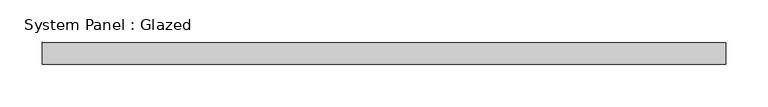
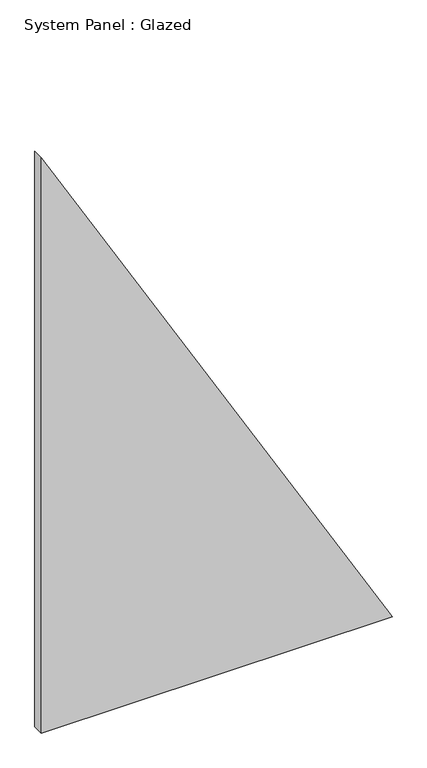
"""IFC4 building model written with IfcOpenShell, lengths in millimetres: plate geometry, System Panel : Glazed."""

from ifc_helpers import new_model, si_unit, frame, origin, place, context, project, spatial, polyline, outline, extrude, source, transform, mapped, element, save


def system_panel_glazed_b678a0e2(model_context):
    return source(origin(), model_context, "Body", "SweptSolid", [
        extrude(outline(polyline([(0.0, -402.0510469), (0.0, 402.0510469), (1392.7456808, -402.0510469), (0.0, -402.0510469)])), frame((0.0, 19.05, 0.0), z_axis=(0.0, 1.0, 0.0), x_axis=(0.0, 0.0, 1.0)), (0.0, 0.0, 1.0), 25.4),
    ])


if __name__ == "__main__":
    model = new_model("IFC4")
    model_context = context("Model", 3, world=origin())
    ifc_project = project(units=[si_unit("LENGTHUNIT", "METRE", prefix="MILLI")], contexts=[model_context])
    site = spatial("IfcSite", under=ifc_project)
    building = spatial("IfcBuilding", under=site)
    placement = place(None, origin())
    system_panel_glazed_shape = system_panel_glazed_b678a0e2(model_context)
    element("IfcPlate", 1, ObjectType="System Panel : Glazed", at=placement, inside=building, context=model_context, shape_type="MappedRepresentation", body=[
        mapped(system_panel_glazed_shape, transform((0.0, 0.0, 0.0), x_axis=(1.0, 0.0, 0.0), y_axis=(0.0, 1.0, 0.0), z_axis=(0.0, 0.0, 1.0))),
    ])
    save(model, "model.ifc")
